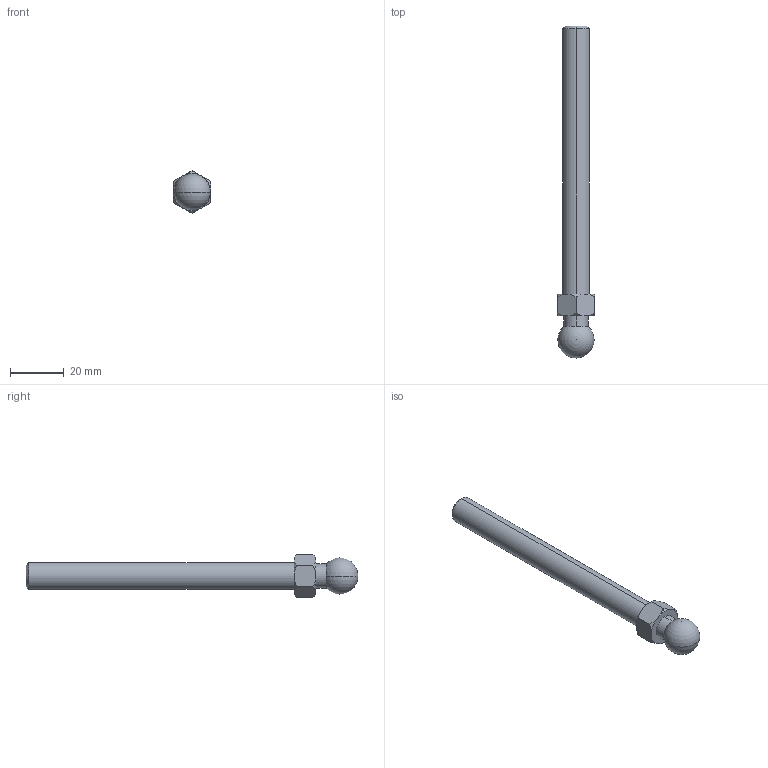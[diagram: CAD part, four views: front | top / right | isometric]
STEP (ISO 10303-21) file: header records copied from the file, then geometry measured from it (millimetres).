
FILE_DESCRIPTION (( 'STEP AP203' ), '1' );
FILE_NAME ('CP-TR10X100.STEP', '2018-03-16T12:31:17', ( '' ), ( '' ), 'SwSTEP 2.0', 'SolidWorks 2013', '' );
FILE_SCHEMA (( 'CONFIG_CONTROL_DESIGN' ));
Length unit declared in the file: millimetre
Products named in the file (1): CP-TR10X100
Bounding box: 13.86 x 123.78 x 16 mm (x, y, z)
Volume: 10646.9 mm3; surface area: 4368.7 mm2
Topology: 1 solids, 1 shells, 31 faces, 83 edges, 54 vertices
Faces by surface type: cone 16, plane 9, cylinder 4, sphere 2
Entity records: 1101 total; most frequent: CARTESIAN_POINT 297, ORIENTED_EDGE 156, DIRECTION 146, EDGE_CURVE 78, AXIS2_PLACEMENT_3D 60, VERTEX_POINT 51, EDGE_LOOP 33, ADVANCED_FACE 31
